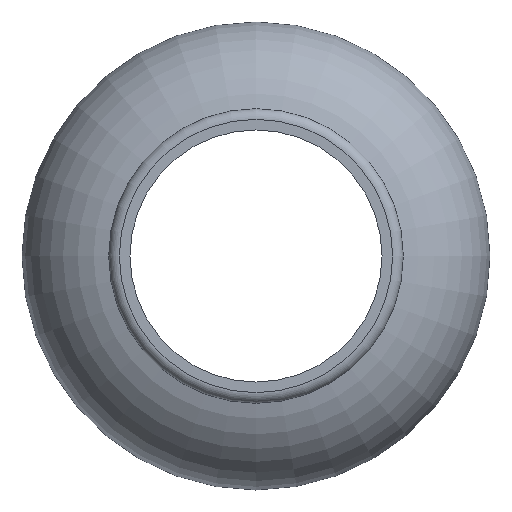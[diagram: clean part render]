
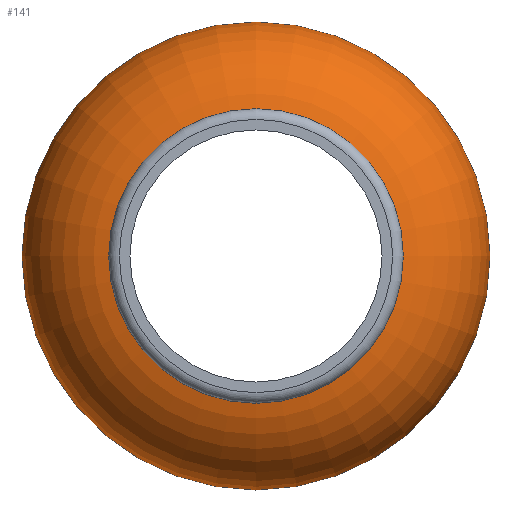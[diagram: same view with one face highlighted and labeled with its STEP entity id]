
A CAD part, left-side view. The second image highlights one B-rep face of the part: STEP entity #141.
In plain terms, the highlighted toroidal (fillet/blend) face has major radius 17.75 mm and minor radius 15.25 mm.
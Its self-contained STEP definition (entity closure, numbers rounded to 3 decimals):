
#27=FACE_BOUND('',#58,.T.);
#39=FACE_OUTER_BOUND('',#57,.T.);
#57=EDGE_LOOP('',(#117));
#58=EDGE_LOOP('',(#118));
#70=CIRCLE('',#151,20.481);
#72=CIRCLE('',#155,20.481);
#82=VERTEX_POINT('',#227);
#84=VERTEX_POINT('',#233);
#94=EDGE_CURVE('',#82,#82,#70,.T.);
#96=EDGE_CURVE('',#84,#84,#72,.T.);
#117=ORIENTED_EDGE('',*,*,#94,.F.);
#118=ORIENTED_EDGE('',*,*,#96,.F.);
#132=TOROIDAL_SURFACE('',#163,17.75,15.25);
#141=ADVANCED_FACE('',(#39,#27),#132,.T.);
#151=AXIS2_PLACEMENT_3D('',#228,#179,#180);
#155=AXIS2_PLACEMENT_3D('',#234,#187,#188);
#163=AXIS2_PLACEMENT_3D('',#246,#203,#204);
#179=DIRECTION('center_axis',(-1.,0.,0.));
#180=DIRECTION('ref_axis',(0.,-1.,0.));
#187=DIRECTION('center_axis',(1.,0.,0.));
#188=DIRECTION('ref_axis',(0.,-1.,0.));
#203=DIRECTION('center_axis',(1.,0.,0.));
#204=DIRECTION('ref_axis',(0.,0.,-1.));
#227=CARTESIAN_POINT('',(-15.003,20.481,0.));
#228=CARTESIAN_POINT('Origin',(-15.003,0.,0.));
#233=CARTESIAN_POINT('',(15.003,20.481,0.));
#234=CARTESIAN_POINT('Origin',(15.003,0.,0.));
#246=CARTESIAN_POINT('Origin',(0.,0.,0.));
